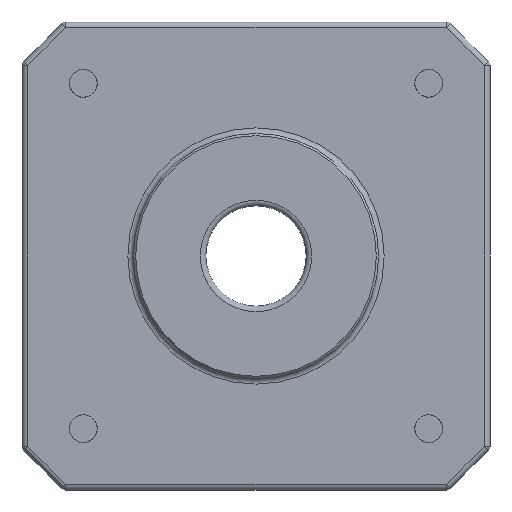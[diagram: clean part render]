
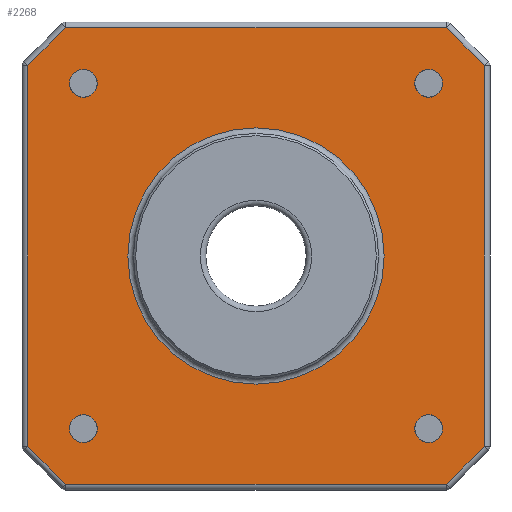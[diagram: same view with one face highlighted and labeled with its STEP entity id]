
A CAD part, front view. The second image highlights one B-rep face of the part: STEP entity #2268.
In plain terms, the highlighted planar face has unit normal (0, -1, 0).
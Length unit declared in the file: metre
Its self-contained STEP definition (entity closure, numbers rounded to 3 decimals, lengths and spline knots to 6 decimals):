
#353=LINE('',#12488,#409);
#356=LINE('',#12495,#412);
#357=LINE('',#12508,#413);
#360=LINE('',#12515,#416);
#361=LINE('',#12528,#417);
#364=LINE('',#12535,#420);
#365=LINE('',#12548,#421);
#368=LINE('',#12554,#424);
#409=VECTOR('',#2515,1.);
#412=VECTOR('',#2522,1.);
#413=VECTOR('',#2539,1.);
#416=VECTOR('',#2546,1.);
#417=VECTOR('',#2563,1.);
#420=VECTOR('',#2570,1.);
#421=VECTOR('',#2587,1.);
#424=VECTOR('',#2594,1.);
#883=ORIENTED_EDGE('',*,*,#1567,.T.);
#884=ORIENTED_EDGE('',*,*,#1557,.T.);
#885=ORIENTED_EDGE('',*,*,#1553,.T.);
#886=ORIENTED_EDGE('',*,*,#1563,.T.);
#887=ORIENTED_EDGE('',*,*,#1573,.T.);
#888=ORIENTED_EDGE('',*,*,#1583,.T.);
#889=ORIENTED_EDGE('',*,*,#1587,.T.);
#890=ORIENTED_EDGE('',*,*,#1577,.T.);
#891=ORIENTED_EDGE('',*,*,#1617,.F.);
#892=ORIENTED_EDGE('',*,*,#1618,.F.);
#893=ORIENTED_EDGE('',*,*,#1619,.F.);
#894=ORIENTED_EDGE('',*,*,#1620,.F.);
#895=ORIENTED_EDGE('',*,*,#1621,.T.);
#1553=EDGE_CURVE('',#1924,#1928,#353,.T.);
#1557=EDGE_CURVE('',#1929,#1924,#356,.T.);
#1563=EDGE_CURVE('',#1928,#1934,#357,.T.);
#1567=EDGE_CURVE('',#1935,#1929,#360,.T.);
#1573=EDGE_CURVE('',#1934,#1940,#361,.T.);
#1577=EDGE_CURVE('',#1941,#1935,#364,.T.);
#1583=EDGE_CURVE('',#1940,#1946,#365,.T.);
#1587=EDGE_CURVE('',#1946,#1941,#368,.T.);
#1617=EDGE_CURVE('',#1854,#1854,#2019,.T.);
#1618=EDGE_CURVE('',#1710,#1710,#2020,.T.);
#1619=EDGE_CURVE('',#1638,#1638,#2021,.T.);
#1620=EDGE_CURVE('',#1782,#1782,#2022,.T.);
#1621=EDGE_CURVE('',#1964,#1964,#2023,.T.);
#1638=VERTEX_POINT('',#2738);
#1710=VERTEX_POINT('',#5171);
#1782=VERTEX_POINT('',#7604);
#1854=VERTEX_POINT('',#10037);
#1924=VERTEX_POINT('',#12479);
#1928=VERTEX_POINT('',#12487);
#1929=VERTEX_POINT('',#12492);
#1934=VERTEX_POINT('',#12507);
#1935=VERTEX_POINT('',#12512);
#1940=VERTEX_POINT('',#12527);
#1941=VERTEX_POINT('',#12532);
#1946=VERTEX_POINT('',#12547);
#1964=VERTEX_POINT('',#12619);
#2019=CIRCLE('',#2392,0.00125);
#2020=CIRCLE('',#2393,0.00125);
#2021=CIRCLE('',#2394,0.00125);
#2022=CIRCLE('',#2395,0.00125);
#2023=CIRCLE('',#2396,0.0115);
#2082=EDGE_LOOP('',(#883,#884,#885,#886,#887,#888,#889,#890));
#2083=EDGE_LOOP('',(#891));
#2084=EDGE_LOOP('',(#892));
#2085=EDGE_LOOP('',(#893));
#2086=EDGE_LOOP('',(#894));
#2087=EDGE_LOOP('',(#895));
#2166=FACE_BOUND('',#2082,.T.);
#2167=FACE_BOUND('',#2083,.T.);
#2168=FACE_BOUND('',#2084,.T.);
#2169=FACE_BOUND('',#2085,.T.);
#2170=FACE_BOUND('',#2086,.T.);
#2171=FACE_BOUND('',#2087,.T.);
#2213=PLANE('',#2391);
#2268=ADVANCED_FACE('',(#2166,#2167,#2168,#2169,#2170,#2171),#2213,.T.);
#2391=AXIS2_PLACEMENT_3D('',#12613,#2659,#2660);
#2392=AXIS2_PLACEMENT_3D('',#12614,#2661,#2662);
#2393=AXIS2_PLACEMENT_3D('',#12615,#2663,#2664);
#2394=AXIS2_PLACEMENT_3D('',#12616,#2665,#2666);
#2395=AXIS2_PLACEMENT_3D('',#12617,#2667,#2668);
#2396=AXIS2_PLACEMENT_3D('',#12618,#2669,#2670);
#2515=DIRECTION('',(0.707,0.,-0.707));
#2522=DIRECTION('',(0.,0.,-1.));
#2539=DIRECTION('',(1.,0.,0.));
#2546=DIRECTION('',(-0.707,0.,-0.707));
#2563=DIRECTION('',(0.707,0.,0.707));
#2570=DIRECTION('',(-1.,0.,0.));
#2587=DIRECTION('',(0.,0.,1.));
#2594=DIRECTION('',(-0.707,0.,0.707));
#2659=DIRECTION('',(0.,-1.,0.));
#2660=DIRECTION('',(0.,0.,-1.));
#2661=DIRECTION('',(0.,-1.,0.));
#2662=DIRECTION('',(0.,0.,-1.));
#2663=DIRECTION('',(0.,-1.,0.));
#2664=DIRECTION('',(0.,0.,-1.));
#2665=DIRECTION('',(0.,-1.,0.));
#2666=DIRECTION('',(0.,0.,-1.));
#2667=DIRECTION('',(0.,-1.,0.));
#2668=DIRECTION('',(0.,0.,-1.));
#2669=DIRECTION('',(0.,1.,0.));
#2670=DIRECTION('',(0.,0.,-1.));
#2738=CARTESIAN_POINT('',(-0.01425,-0.0312,-0.0155));
#5171=CARTESIAN_POINT('',(-0.01425,-0.0312,0.0155));
#7604=CARTESIAN_POINT('',(0.01675,-0.0312,-0.0155));
#10037=CARTESIAN_POINT('',(0.01675,-0.0312,0.0155));
#12479=CARTESIAN_POINT('',(-0.0205,-0.0312,-0.017093));
#12487=CARTESIAN_POINT('',(-0.017093,-0.0312,-0.0205));
#12488=CARTESIAN_POINT('',(-0.018796,-0.0312,-0.018796));
#12492=CARTESIAN_POINT('',(-0.0205,-0.0312,0.017093));
#12495=CARTESIAN_POINT('',(-0.0205,-0.0312,-0.017093));
#12507=CARTESIAN_POINT('',(0.017093,-0.0312,-0.0205));
#12508=CARTESIAN_POINT('',(0.017093,-0.0312,-0.0205));
#12512=CARTESIAN_POINT('',(-0.017093,-0.0312,0.0205));
#12515=CARTESIAN_POINT('',(-0.018796,-0.0312,0.018796));
#12527=CARTESIAN_POINT('',(0.0205,-0.0312,-0.017093));
#12528=CARTESIAN_POINT('',(0.018796,-0.0312,-0.018796));
#12532=CARTESIAN_POINT('',(0.017093,-0.0312,0.0205));
#12535=CARTESIAN_POINT('',(-0.017093,-0.0312,0.0205));
#12547=CARTESIAN_POINT('',(0.0205,-0.0312,0.017093));
#12548=CARTESIAN_POINT('',(0.0205,-0.0312,0.017093));
#12554=CARTESIAN_POINT('',(0.018796,-0.0312,0.018796));
#12613=CARTESIAN_POINT('',(0.,-0.0312,0.));
#12614=CARTESIAN_POINT('',(0.0155,-0.0312,0.0155));
#12615=CARTESIAN_POINT('',(-0.0155,-0.0312,0.0155));
#12616=CARTESIAN_POINT('',(-0.0155,-0.0312,-0.0155));
#12617=CARTESIAN_POINT('',(0.0155,-0.0312,-0.0155));
#12618=CARTESIAN_POINT('',(0.,-0.0312,0.));
#12619=CARTESIAN_POINT('',(0.,-0.0312,-0.0115));
